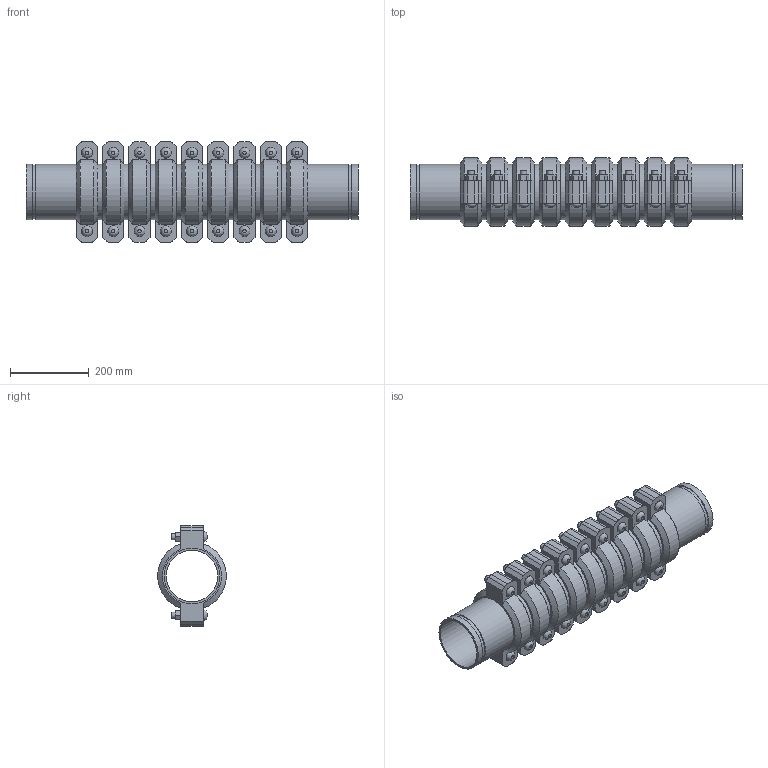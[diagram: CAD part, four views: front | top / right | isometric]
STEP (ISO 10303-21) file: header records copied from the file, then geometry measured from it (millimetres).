
FILE_DESCRIPTION(/* description */ ('VIC EXPANSION JOINT 9 COUPLINGS EXPANDED STYLE 155 (OGS)','CAx-IF Rec.Pracs.---Representation and Presentation of Product Manufacturing Information (PMI)---4.0---2014-10-13'),/* implementation_level */ '2;1');
FILE_NAME(/* name */ 'C:\Users\kkamble\AppData\Roaming\Autodesk\ApplicationPlugins\Victaulic.Temp\A90\Victaulic_IPS_Expansion Joint_Expanded_9 Couplings_Style 155 (OGS)_5 (125).stp',/* time_stamp */ '2021-06-27T00:11:32+02:00',/* author */ ('kkamble'),/* organization */ ('Victaulic'),/* preprocessor_version */ 'ST-DEVELOPER v17.2',/* originating_system */ 'Autodesk Inventor 2019',/* authorisation */ '');
FILE_SCHEMA (('AP242_MANAGED_MODEL_BASED_3D_ENGINEERING_MIM_LF { 1 0 10303 442 1 1 4 }'));
Length unit declared in the file: inch
Products named in the file (4): 155-05.0; Nipple-05.0; Nipple-05.0_1; 075-05.0
Assembly tree (19 placements, depth 2):
  155-05.0
    Nipple-05.0  x2
    Nipple-05.0_1  x8
    075-05.0  x9
Bounding box: 844.8 x 174.16 x 255.78 mm (x, y, z)
Volume: 7682026.7 mm3; surface area: 1688787 mm2
Topology: 19 solids, 37 shells, 633 faces, 1497 edges, 1050 vertices
Faces by surface type: plane 384, cylinder 195, cone 36, bspline 18
Full cylindrical faces by diameter (mm): 15.875 x36, 17.424 x18, 130.988 x10, 134.95 x9, 137.033 x20, 141.3 x48
Entity records: 2865 total; most frequent: CARTESIAN_POINT 503, DIRECTION 481, ORIENTED_EDGE 386, AXIS2_PLACEMENT_3D 194, EDGE_CURVE 193, VERTEX_POINT 138, EDGE_LOOP 107, LINE 93
